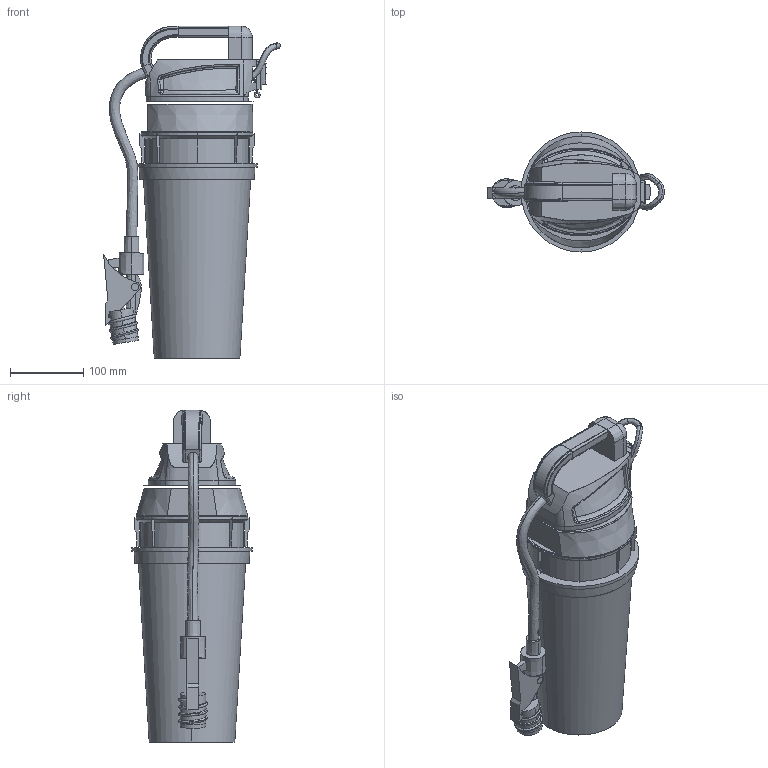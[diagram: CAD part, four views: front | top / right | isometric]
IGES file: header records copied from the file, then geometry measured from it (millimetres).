
Start section: START RECORD GO HERE.
Global section: file name: Fire_Moloudi.igs; native system: DASSAULT SYSTEMES CATIA V5 R21 - www.3ds.com; preprocessor: CATIA Version 5 Release 21 ; author: Amir; organization: LAPTOP-2T5KNVDS; date: 20220628.210839; units: millimetre
Bounding box: 241.65 x 164.04 x 453.81 mm (x, y, z)
Surface area: 301808.8 mm2 (no closed solid volume)
Topology: 0 solids, 0 shells, 281 faces, 1323 edges, 1319 vertices
Faces by surface type: bspline 185, plane 47, revolution 42, extrusion 7
